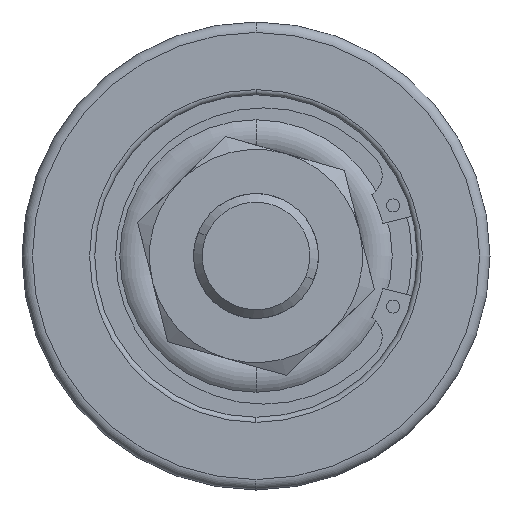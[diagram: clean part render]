
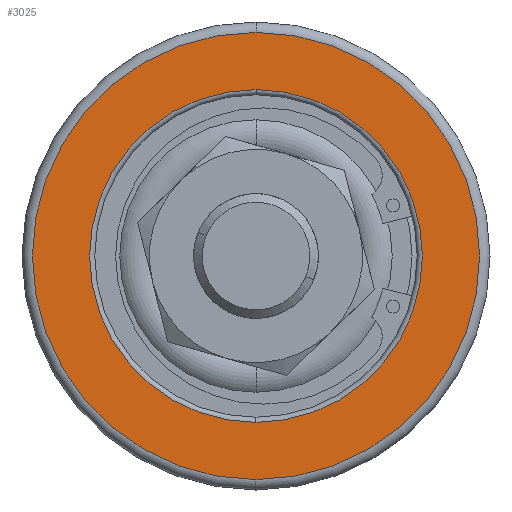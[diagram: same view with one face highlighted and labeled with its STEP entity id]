
A CAD part, left-side view. The second image highlights one B-rep face of the part: STEP entity #3025.
In plain terms, the highlighted planar face has unit normal (-1, 0, 0).
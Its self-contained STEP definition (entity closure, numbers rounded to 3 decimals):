
#313 = CARTESIAN_POINT ( 'NONE',  ( -25., 0., 0. ) ) ;
#415 = DIRECTION ( 'NONE',  ( 1., 0., 0. ) ) ;
#533 = FACE_OUTER_BOUND ( 'NONE', #676, .T. ) ;
#676 = EDGE_LOOP ( 'NONE', ( #8881, #1172 ) ) ;
#802 = AXIS2_PLACEMENT_3D ( 'NONE', #313, #6223, #1157 ) ;
#946 = EDGE_CURVE ( 'NONE', #5807, #4052, #6715, .T. ) ;
#1096 = CARTESIAN_POINT ( 'NONE',  ( -25., 43., 0. ) ) ;
#1131 = DIRECTION ( 'NONE',  ( -1., 0., 0. ) ) ;
#1157 = DIRECTION ( 'NONE',  ( 0., 0., 1. ) ) ;
#1172 = ORIENTED_EDGE ( 'NONE', *, *, #946, .T. ) ;
#2735 = FACE_BOUND ( 'NONE', #6850, .T. ) ;
#2752 = CARTESIAN_POINT ( 'NONE',  ( -25., 0., 0. ) ) ;
#3025 = ADVANCED_FACE ( 'NONE', ( #2735, #533 ), #7004, .F. ) ;
#3223 = CARTESIAN_POINT ( 'NONE',  ( -25., 0., -43. ) ) ;
#3285 = CARTESIAN_POINT ( 'NONE',  ( -25., 0., 0. ) ) ;
#3574 = CARTESIAN_POINT ( 'NONE',  ( -25., 0., 32. ) ) ;
#4052 = VERTEX_POINT ( 'NONE', #7988 ) ;
#4664 = CIRCLE ( 'NONE', #6185, 32. ) ;
#4741 = VERTEX_POINT ( 'NONE', #3574 ) ;
#5070 = VERTEX_POINT ( 'NONE', #8761 ) ;
#5266 = AXIS2_PLACEMENT_3D ( 'NONE', #1096, #415, #7095 ) ;
#5286 = CIRCLE ( 'NONE', #5299, 32. ) ;
#5299 = AXIS2_PLACEMENT_3D ( 'NONE', #3285, #9201, #5603 ) ;
#5484 = ORIENTED_EDGE ( 'NONE', *, *, #9132, .F. ) ;
#5603 = DIRECTION ( 'NONE',  ( 0., 0., 1. ) ) ;
#5653 = EDGE_CURVE ( 'NONE', #4052, #5807, #6450, .T. ) ;
#5807 = VERTEX_POINT ( 'NONE', #3223 ) ;
#5840 = AXIS2_PLACEMENT_3D ( 'NONE', #7706, #1131, #8539 ) ;
#6185 = AXIS2_PLACEMENT_3D ( 'NONE', #2752, #8165, #7456 ) ;
#6223 = DIRECTION ( 'NONE',  ( -1., 0., 0. ) ) ;
#6255 = EDGE_CURVE ( 'NONE', #5070, #4741, #5286, .T. ) ;
#6450 = CIRCLE ( 'NONE', #5840, 43. ) ;
#6482 = ORIENTED_EDGE ( 'NONE', *, *, #6255, .F. ) ;
#6715 = CIRCLE ( 'NONE', #802, 43. ) ;
#6850 = EDGE_LOOP ( 'NONE', ( #5484, #6482 ) ) ;
#7004 = PLANE ( 'NONE',  #5266 ) ;
#7095 = DIRECTION ( 'NONE',  ( 0., 0., -1. ) ) ;
#7456 = DIRECTION ( 'NONE',  ( 0., 0., 1. ) ) ;
#7706 = CARTESIAN_POINT ( 'NONE',  ( -25., 0., 0. ) ) ;
#7988 = CARTESIAN_POINT ( 'NONE',  ( -25., 0., 43. ) ) ;
#8165 = DIRECTION ( 'NONE',  ( -1., 0., 0. ) ) ;
#8539 = DIRECTION ( 'NONE',  ( 0., 0., 1. ) ) ;
#8761 = CARTESIAN_POINT ( 'NONE',  ( -25., 0., -32. ) ) ;
#8881 = ORIENTED_EDGE ( 'NONE', *, *, #5653, .T. ) ;
#9132 = EDGE_CURVE ( 'NONE', #4741, #5070, #4664, .T. ) ;
#9201 = DIRECTION ( 'NONE',  ( -1., 0., 0. ) ) ;
